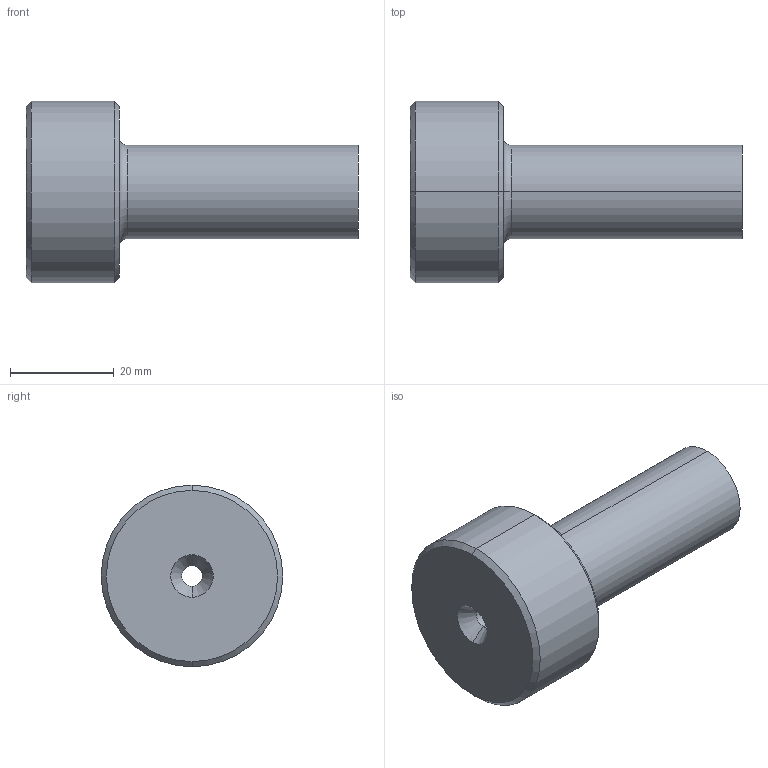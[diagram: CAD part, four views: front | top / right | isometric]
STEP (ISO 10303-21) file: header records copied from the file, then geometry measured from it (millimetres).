
FILE_DESCRIPTION (( 'STEP AP214' ), '1' );
FILE_NAME ('BRB7-046.STEP', '2020-01-29T09:57:15', ( 'August' ), ( '' ), 'SwSTEP 2.0', 'SolidWorks 2018', '' );
FILE_SCHEMA (( 'AUTOMOTIVE_DESIGN' ));
Length unit declared in the file: millimetre
Products named in the file (1): BRB7-046
Bounding box: 64 x 35 x 35 mm (x, y, z)
Volume: 27605.8 mm3; surface area: 7296.4 mm2
Topology: 1 solids, 1 shells, 17 faces, 34 edges, 20 vertices
Faces by surface type: cone 8, cylinder 4, plane 3, torus 2
Entity records: 484 total; most frequent: DIRECTION 92, CARTESIAN_POINT 72, ORIENTED_EDGE 68, AXIS2_PLACEMENT_3D 40, EDGE_CURVE 34, CIRCLE 22, EDGE_LOOP 20, VERTEX_POINT 20
